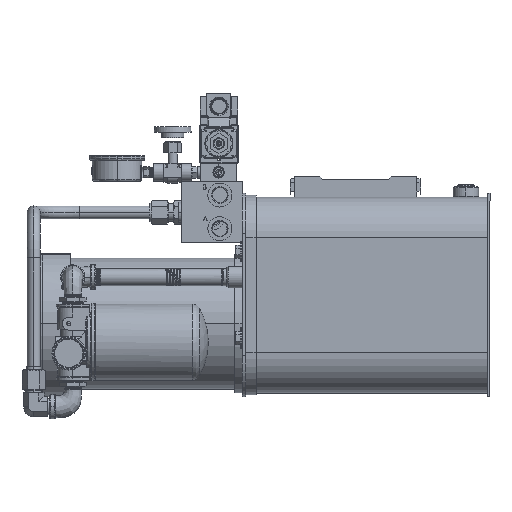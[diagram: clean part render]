
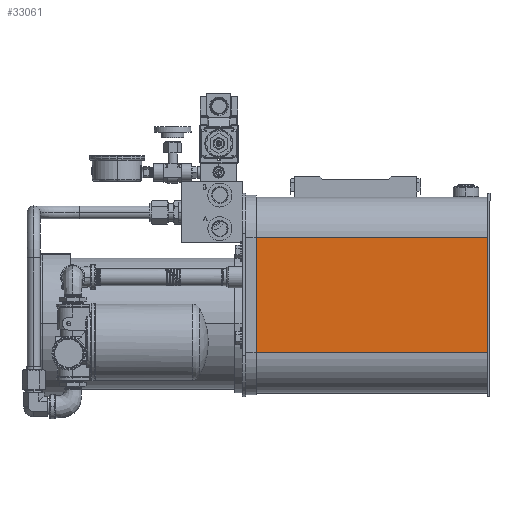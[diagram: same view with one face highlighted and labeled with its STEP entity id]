
A CAD part, top view. The second image highlights one B-rep face of the part: STEP entity #33061.
In plain terms, the highlighted planar face has unit normal (0, 0, 1).
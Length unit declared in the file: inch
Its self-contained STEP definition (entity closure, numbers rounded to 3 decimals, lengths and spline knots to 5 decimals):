
#507 = VERTEX_POINT ( 'NONE', #148961 ) ;
#5190 = ORIENTED_EDGE ( 'NONE', *, *, #183137, .F. ) ;
#13275 = DIRECTION ( 'NONE',  ( 0., 1., 0. ) ) ;
#23598 = CARTESIAN_POINT ( 'NONE',  ( -4.13315, 11.14863, 18.13367 ) ) ;
#23695 = ORIENTED_EDGE ( 'NONE', *, *, #140965, .F. ) ;
#25681 = ORIENTED_EDGE ( 'NONE', *, *, #155502, .T. ) ;
#27979 = CARTESIAN_POINT ( 'NONE',  ( -4.00815, 5.52363, 18.13367 ) ) ;
#33061 = ADVANCED_FACE ( 'NONE', ( #46007 ), #163969, .T. ) ;
#35602 = VECTOR ( 'NONE', #156501, 39.37008 ) ;
#43121 = DIRECTION ( 'NONE',  ( 1., 0., 0. ) ) ;
#46007 = FACE_OUTER_BOUND ( 'NONE', #142842, .T. ) ;
#47228 = VERTEX_POINT ( 'NONE', #126877 ) ;
#54393 = VECTOR ( 'NONE', #141618, 39.37008 ) ;
#55080 = VECTOR ( 'NONE', #13275, 39.37008 ) ;
#55198 = EDGE_CURVE ( 'NONE', #47228, #163802, #88059, .T. ) ;
#55300 = LINE ( 'NONE', #23598, #54393 ) ;
#67878 = AXIS2_PLACEMENT_3D ( 'NONE', #176503, #162065, #135177 ) ;
#72806 = CARTESIAN_POINT ( 'NONE',  ( -4.13315, 5.52363, 18.13367 ) ) ;
#81026 = VERTEX_POINT ( 'NONE', #84589 ) ;
#84589 = CARTESIAN_POINT ( 'NONE',  ( -4.00815, 11.14863, 18.13367 ) ) ;
#86188 = CARTESIAN_POINT ( 'NONE',  ( 7.74725, 13.33613, 18.13367 ) ) ;
#88059 = LINE ( 'NONE', #86188, #55080 ) ;
#91398 = VECTOR ( 'NONE', #43121, 39.37008 ) ;
#126877 = CARTESIAN_POINT ( 'NONE',  ( 7.74725, 5.52363, 18.13367 ) ) ;
#135177 = DIRECTION ( 'NONE',  ( 0., 1., 0. ) ) ;
#140965 = EDGE_CURVE ( 'NONE', #81026, #163802, #55300, .T. ) ;
#141618 = DIRECTION ( 'NONE',  ( 1., 0., 0. ) ) ;
#142842 = EDGE_LOOP ( 'NONE', ( #23695, #5190, #25681, #177309 ) ) ;
#144773 = LINE ( 'NONE', #72806, #91398 ) ;
#148961 = CARTESIAN_POINT ( 'NONE',  ( -4.00815, 5.52363, 18.13367 ) ) ;
#155502 = EDGE_CURVE ( 'NONE', #507, #47228, #144773, .T. ) ;
#156501 = DIRECTION ( 'NONE',  ( 0., 1., 0. ) ) ;
#159372 = LINE ( 'NONE', #27979, #35602 ) ;
#162065 = DIRECTION ( 'NONE',  ( 0., 0., 1. ) ) ;
#163802 = VERTEX_POINT ( 'NONE', #176362 ) ;
#163969 = PLANE ( 'NONE',  #67878 ) ;
#176362 = CARTESIAN_POINT ( 'NONE',  ( 7.74725, 11.14863, 18.13367 ) ) ;
#176503 = CARTESIAN_POINT ( 'NONE',  ( -4.13315, 5.52363, 18.13367 ) ) ;
#177309 = ORIENTED_EDGE ( 'NONE', *, *, #55198, .T. ) ;
#183137 = EDGE_CURVE ( 'NONE', #507, #81026, #159372, .T. ) ;
